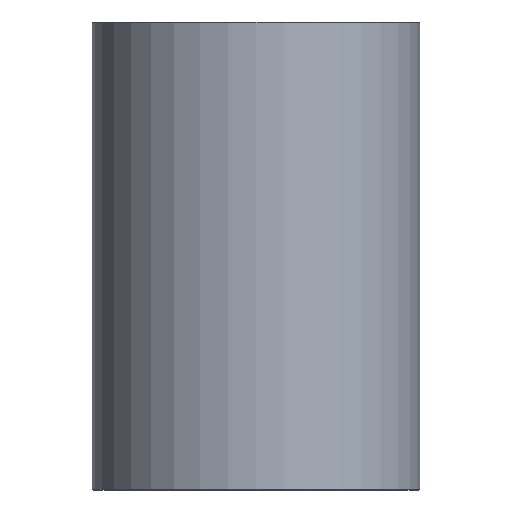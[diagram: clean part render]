
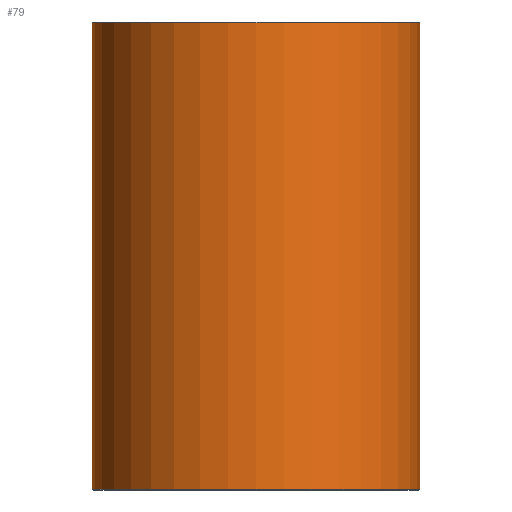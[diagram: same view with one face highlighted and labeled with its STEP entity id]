
A CAD part, front view. The second image highlights one B-rep face of the part: STEP entity #79.
In plain terms, the highlighted cylindrical face has radius 35 mm (diameter 70 mm), a full revolution.
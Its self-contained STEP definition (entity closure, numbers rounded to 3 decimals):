
#79=ADVANCED_FACE('',(#96,#97),#98,.T.);
#96=FACE_OUTER_BOUND('',#120,.T.);
#97=FACE_OUTER_BOUND('',#121,.T.);
#98=CYLINDRICAL_SURFACE('',#122,35.0);
#120=EDGE_LOOP('',(#152));
#121=EDGE_LOOP('',(#153));
#122=AXIS2_PLACEMENT_3D('',#154,#155,#156);
#152=ORIENTED_EDGE('',*,*,#178,.T.);
#153=ORIENTED_EDGE('',*,*,#177,.T.);
#154=CARTESIAN_POINT('',(0.,0.0,100.0));
#155=DIRECTION('',(0.0,0.0,-1.0));
#156=DIRECTION('',(-1.0,0.0,0.0));
#177=EDGE_CURVE('',#190,#190,#191,.T.);
#178=EDGE_CURVE('',#192,#192,#193,.F.);
#190=VERTEX_POINT('',#206);
#191=CIRCLE('',#207,35.0);
#192=VERTEX_POINT('',#208);
#193=CIRCLE('',#209,35.0);
#206=CARTESIAN_POINT('',(35.0,0.0,0.2));
#207=AXIS2_PLACEMENT_3D('',#227,#228,#229);
#208=CARTESIAN_POINT('',(35.0,0.,99.8));
#209=AXIS2_PLACEMENT_3D('',#230,#231,#232);
#227=CARTESIAN_POINT('',(0.,0.0,0.2));
#228=DIRECTION('',(0.0,0.0,1.0));
#229=DIRECTION('',(1.0,0.0,0.0));
#230=CARTESIAN_POINT('',(0.,0.0,99.8));
#231=DIRECTION('',(0.0,0.0,1.0));
#232=DIRECTION('',(1.0,0.0,0.0));
